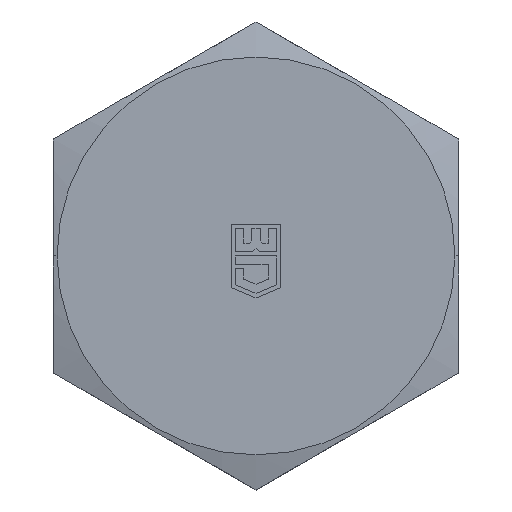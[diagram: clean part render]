
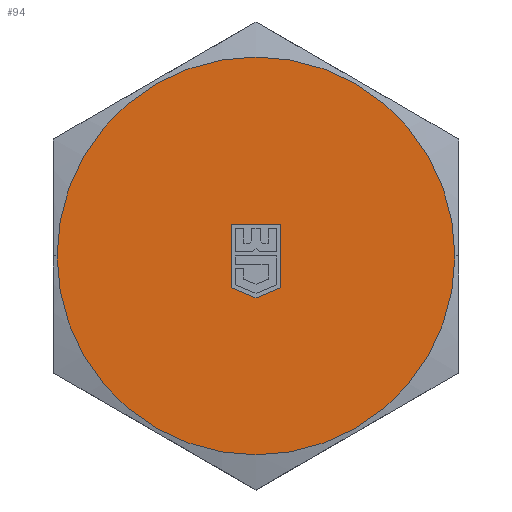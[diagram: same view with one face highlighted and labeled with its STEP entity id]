
A CAD part, top view. The second image highlights one B-rep face of the part: STEP entity #94.
In plain terms, the highlighted planar face has unit normal (0, 0, 1).
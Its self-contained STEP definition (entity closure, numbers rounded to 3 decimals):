
#88 = ORIENTED_EDGE ( 'NONE', *, *, #89, .T. ) ;
#89 = EDGE_CURVE ( 'NONE', #92, #278, #747, .T. ) ;
#90 = ORIENTED_EDGE ( 'NONE', *, *, #91, .T. ) ;
#91 = EDGE_CURVE ( 'NONE', #104, #92, #743, .T. ) ;
#92 = VERTEX_POINT ( 'NONE', #805 ) ;
#94 = ADVANCED_FACE ( 'NONE', ( #804, #803 ), #802, .T. ) ;
#95 = EDGE_LOOP ( 'NONE', ( #100, #101 ) ) ;
#100 = ORIENTED_EDGE ( 'NONE', *, *, #180, .F. ) ;
#101 = ORIENTED_EDGE ( 'NONE', *, *, #103, .F. ) ;
#103 = EDGE_CURVE ( 'NONE', #182, #181, #732, .T. ) ;
#104 = VERTEX_POINT ( 'NONE', #793 ) ;
#105 = EDGE_LOOP ( 'NONE', ( #90, #88, #150, #147, #135 ) ) ;
#135 = ORIENTED_EDGE ( 'NONE', *, *, #136, .T. ) ;
#136 = EDGE_CURVE ( 'NONE', #146, #104, #923, .T. ) ;
#146 = VERTEX_POINT ( 'NONE', #940 ) ;
#147 = ORIENTED_EDGE ( 'NONE', *, *, #149, .T. ) ;
#149 = EDGE_CURVE ( 'NONE', #201, #146, #896, .T. ) ;
#150 = ORIENTED_EDGE ( 'NONE', *, *, #200, .T. ) ;
#180 = EDGE_CURVE ( 'NONE', #181, #182, #966, .T. ) ;
#181 = VERTEX_POINT ( 'NONE', #961 ) ;
#182 = VERTEX_POINT ( 'NONE', #960 ) ;
#200 = EDGE_CURVE ( 'NONE', #278, #201, #930, .T. ) ;
#201 = VERTEX_POINT ( 'NONE', #902 ) ;
#278 = VERTEX_POINT ( 'NONE', #1103 ) ;
#730 = CARTESIAN_POINT ( 'NONE',  ( 0., 0., 0. ) ) ;
#731 = AXIS2_PLACEMENT_3D ( 'NONE', #730, #795, #794 ) ;
#732 = CIRCLE ( 'NONE', #731, 10.8 ) ;
#741 = VECTOR ( 'NONE', #806, 1000. ) ;
#742 = CARTESIAN_POINT ( 'NONE',  ( 0., -2.28, 0. ) ) ;
#743 = LINE ( 'NONE', #742, #741 ) ;
#744 = DIRECTION ( 'NONE',  ( -0.924, 0.383, 0. ) ) ;
#745 = VECTOR ( 'NONE', #744, 1000. ) ;
#746 = CARTESIAN_POINT ( 'NONE',  ( 0., -2.28, 0. ) ) ;
#747 = LINE ( 'NONE', #746, #745 ) ;
#793 = CARTESIAN_POINT ( 'NONE',  ( 1.35, -1.721, 0. ) ) ;
#794 = DIRECTION ( 'NONE',  ( -1., 0., 0. ) ) ;
#795 = DIRECTION ( 'NONE',  ( 0., 0., -1. ) ) ;
#797 = DIRECTION ( 'NONE',  ( 1., 0., 0. ) ) ;
#798 = DIRECTION ( 'NONE',  ( 0., 0., 1. ) ) ;
#799 = CARTESIAN_POINT ( 'NONE',  ( 11., -6.351, 0. ) ) ;
#800 = AXIS2_PLACEMENT_3D ( 'NONE', #799, #798, #797 ) ;
#802 = PLANE ( 'NONE',  #800 ) ;
#803 = FACE_BOUND ( 'NONE', #105, .T. ) ;
#804 = FACE_OUTER_BOUND ( 'NONE', #95, .T. ) ;
#805 = CARTESIAN_POINT ( 'NONE',  ( 0., -2.28, 0. ) ) ;
#806 = DIRECTION ( 'NONE',  ( -0.924, -0.383, 0. ) ) ;
#893 = DIRECTION ( 'NONE',  ( 1., 0., 0. ) ) ;
#894 = VECTOR ( 'NONE', #893, 1000. ) ;
#895 = CARTESIAN_POINT ( 'NONE',  ( -1.35, 1.72, 0. ) ) ;
#896 = LINE ( 'NONE', #895, #894 ) ;
#902 = CARTESIAN_POINT ( 'NONE',  ( -1.35, 1.72, 0. ) ) ;
#903 = DIRECTION ( 'NONE',  ( 0., 1., 0. ) ) ;
#904 = VECTOR ( 'NONE', #903, 1000. ) ;
#920 = DIRECTION ( 'NONE',  ( 0., -1., 0. ) ) ;
#921 = VECTOR ( 'NONE', #920, 1000. ) ;
#922 = CARTESIAN_POINT ( 'NONE',  ( 1.35, 1.72, 0. ) ) ;
#923 = LINE ( 'NONE', #922, #921 ) ;
#929 = CARTESIAN_POINT ( 'NONE',  ( -1.35, -1.721, 0. ) ) ;
#930 = LINE ( 'NONE', #929, #904 ) ;
#940 = CARTESIAN_POINT ( 'NONE',  ( 1.35, 1.72, 0. ) ) ;
#960 = CARTESIAN_POINT ( 'NONE',  ( 10.8, 0., 0. ) ) ;
#961 = CARTESIAN_POINT ( 'NONE',  ( -10.8, 0., 0. ) ) ;
#962 = DIRECTION ( 'NONE',  ( -1., 0., 0. ) ) ;
#963 = DIRECTION ( 'NONE',  ( 0., 0., -1. ) ) ;
#964 = CARTESIAN_POINT ( 'NONE',  ( 0., 0., 0. ) ) ;
#965 = AXIS2_PLACEMENT_3D ( 'NONE', #964, #963, #962 ) ;
#966 = CIRCLE ( 'NONE', #965, 10.8 ) ;
#1103 = CARTESIAN_POINT ( 'NONE',  ( -1.35, -1.721, 0. ) ) ;
